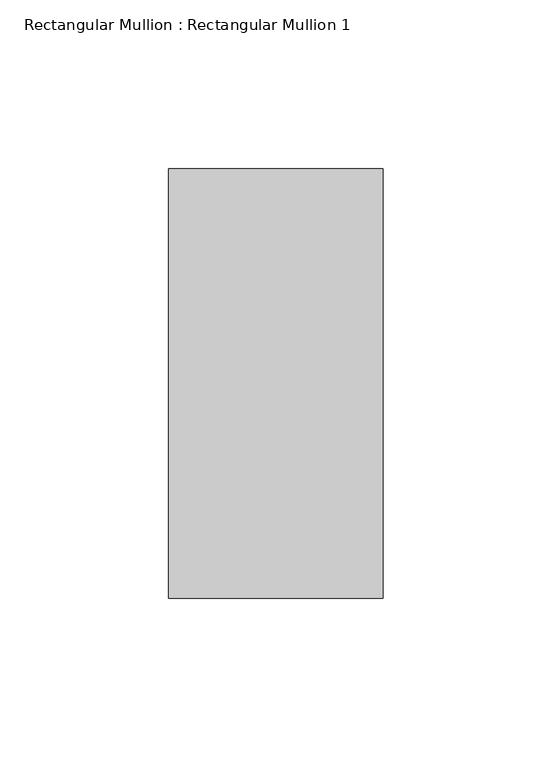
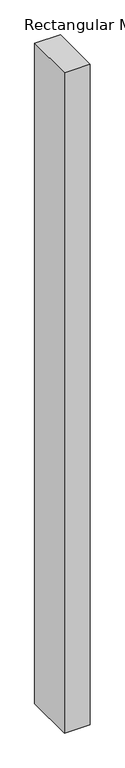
"""IFC4 building model written with IfcOpenShell, lengths in millimetres: member geometry, Rectangular Mullion : Rectangular Mullion 1."""

import ifcopenshell
import ifcopenshell.guid

model = None  # the IFC model being written
_history = None  # IfcOwnerHistory: only IFC2X3 demands one
_inside = {}  # id of a spatial element -> (the spatial element, [elements in it])
_under = {}  # id of a project, library or spatial element -> (it, [spatial elements below it])
_declared = {}  # id of a project -> (the project, [libraries it declares])
_typed = {}  # id of a type object -> (the type object, [elements of that type])
_made_of = {}  # id of a material, layer set ... -> (it, [elements and type objects made of it])


def new_model(schema):
    """Start an empty IFC model of exactly this schema.

    Asked for "IFC4X3", IfcOpenShell would pick the latest addendum, in which some entities
    have other attributes; the version numbers below select the first issue.
    IFC2X3 requires an IfcOwnerHistory on every rooted entity: one is made here for all.
    """
    global model, _history
    if schema == "IFC4X3":
        model = ifcopenshell.file(schema_version=(4, 3, 0, 0))
    else:
        model = ifcopenshell.file(schema=schema)
    _inside.clear()
    _under.clear()
    _declared.clear()
    _typed.clear()
    _made_of.clear()
    _history = None
    if model.schema == "IFC2X3":
        org = make("IfcOrganization", Name="unknown")
        user = make(
            "IfcPersonAndOrganization",
            ThePerson=make("IfcPerson", FamilyName="unknown"),
            TheOrganization=org,
        )
        app = make(
            "IfcApplication",
            ApplicationDeveloper=org,
            Version="unknown",
            ApplicationFullName="unknown",
            ApplicationIdentifier="unknown",
        )
        _history = make(
            "IfcOwnerHistory",
            OwningUser=user,
            OwningApplication=app,
            ChangeAction="ADDED",
            CreationDate=0,
        )
    return model


def make(cls, **values):
    """One entity of the class cls with the attributes given. An attribute that is None is left unset."""
    return model.create_entity(
        cls, **{name: value for name, value in values.items() if value is not None}
    )


def rooted(cls, **values):
    """An entity with a GlobalId (a new one), such as an element, a storey or a relation."""
    return make(cls, GlobalId=ifcopenshell.guid.new(), OwnerHistory=_history, **values)


def si_unit(unit_type, name, prefix=None):
    """IfcSIUnit, for example si_unit("LENGTHUNIT", "METRE", prefix="MILLI")."""
    return make("IfcSIUnit", UnitType=unit_type, Prefix=prefix, Name=name)


def assignment(units):
    """IfcUnitAssignment: the units of a project."""
    return None if units is None else make("IfcUnitAssignment", Units=units)


def point(xyz):
    """IfcCartesianPoint."""
    return None if xyz is None else make("IfcCartesianPoint", Coordinates=xyz)


def direction(xyz):
    """IfcDirection."""
    return None if xyz is None else make("IfcDirection", DirectionRatios=xyz)


def frame(location, z_axis=None, x_axis=None):
    """IfcAxis2Placement3D, a coordinate frame: its origin and axes. An axis left out is left unset."""
    return make(
        "IfcAxis2Placement3D",
        Location=point(location),
        Axis=direction(z_axis),
        RefDirection=direction(x_axis),
    )


def origin():
    """The frame at (0, 0, 0) with its axes left unset."""
    return frame((0.0, 0.0, 0.0))


def place(relative_to, where):
    """IfcLocalPlacement: puts the frame where relative to a parent placement (None: the world)."""
    return make(
        "IfcLocalPlacement", PlacementRelTo=relative_to, RelativePlacement=where
    )


def context(
    kind, dimensions, precision=None, world=None, true_north=None, identifier=None
):
    """IfcGeometricRepresentationContext, for example the 3D "Model" context."""
    return make(
        "IfcGeometricRepresentationContext",
        ContextIdentifier=identifier,
        ContextType=kind,
        CoordinateSpaceDimension=dimensions,
        Precision=precision,
        WorldCoordinateSystem=world,
        TrueNorth=true_north,
    )


def project(units=None, contexts=None):
    """IfcProject with its units and contexts."""
    return rooted(
        "IfcProject",
        Name="project",
        RepresentationContexts=contexts,
        UnitsInContext=assignment(units),
    )


def spatial(cls, under=None, at=None, **own):
    """A site, building, storey or space (cls), placed at a placement, below another one or the project."""
    s = rooted(cls, ObjectPlacement=at, **own)
    if under is not None:
        _under.setdefault(under.id(), (under, []))[1].append(s)
    return s


def polyline(points):
    """IfcPolyline through the points."""
    return make("IfcPolyline", Points=[point(p) for p in points])


def outline(outer, holes=None, kind="AREA"):
    """IfcArbitraryClosedProfileDef: a profile drawn as a closed curve; with holes, ...WithVoids."""
    if holes is None:
        return make("IfcArbitraryClosedProfileDef", ProfileType=kind, OuterCurve=outer)
    return make(
        "IfcArbitraryProfileDefWithVoids",
        ProfileType=kind,
        OuterCurve=outer,
        InnerCurves=holes,
    )


def extrude(swept, where, along, depth):
    """IfcExtrudedAreaSolid: the profile swept, set in the frame where, extruded along a direction by depth."""
    return make(
        "IfcExtrudedAreaSolid",
        SweptArea=swept,
        Position=where,
        ExtrudedDirection=direction(along),
        Depth=depth,
    )


def shape(context_of_items, identifier, shape_type, items):
    """IfcShapeRepresentation: the items that make up one representation, for example the "Body"."""
    return make(
        "IfcShapeRepresentation",
        ContextOfItems=context_of_items,
        RepresentationIdentifier=identifier,
        RepresentationType=shape_type,
        Items=items,
    )


def source(mapping_origin, context_of_items, identifier, shape_type, items):
    """IfcRepresentationMap: a shape defined once, which mapped items show again and again."""
    return make(
        "IfcRepresentationMap",
        MappingOrigin=mapping_origin,
        MappedRepresentation=shape(context_of_items, identifier, shape_type, items),
    )


def transform(
    local_origin,
    x_axis=None,
    y_axis=None,
    z_axis=None,
    scale=None,
    scale2=None,
    scale3=None,
    uniform=True,
):
    """IfcCartesianTransformationOperator3D, or its non-uniform kind. x_axis, y_axis, z_axis: its Axis1, 2, 3."""
    if uniform:
        return make(
            "IfcCartesianTransformationOperator3D",
            Axis1=direction(x_axis),
            Axis2=direction(y_axis),
            LocalOrigin=point(local_origin),
            Scale=scale,
            Axis3=direction(z_axis),
        )
    return make(
        "IfcCartesianTransformationOperator3DnonUniform",
        Axis1=direction(x_axis),
        Axis2=direction(y_axis),
        LocalOrigin=point(local_origin),
        Scale=scale,
        Axis3=direction(z_axis),
        Scale2=scale2,
        Scale3=scale3,
    )


def mapped(mapping_source, mapping_target):
    """IfcMappedItem: shows the shape of a source again, moved by a transform."""
    return make(
        "IfcMappedItem", MappingSource=mapping_source, MappingTarget=mapping_target
    )


def made_of(thing, what):
    """Note that an element or type object is made of a material, layer set ...; save() writes the relation."""
    if what is not None:
        _made_of.setdefault(what.id(), (what, []))[1].append(thing)
    return thing


def element(
    cls,
    number,
    at=None,
    inside=None,
    cuts=None,
    type_object=None,
    material=None,
    context=None,
    identifier="Body",
    shape_type=None,
    held_by="IfcProductDefinitionShape",
    body=None,
    shapes=None,
    **own,
):
    """One element of the class cls, such as IfcWall. Its Tag is "e" and its number.

    at: its placement. inside: the storey or other place that contains it. cuts: it is an
    opening in that element (IfcRelVoidsElement). A single representation is given by context,
    identifier, shape_type and body (its items); several are given by shapes. held_by: the class
    of the entity that holds the representations. save() writes the other relations.
    """
    e = rooted(cls, Tag="e%d" % number, ObjectPlacement=at, **own)
    if body is not None:
        shapes = [shape(context, identifier, shape_type, body)]
    if shapes is not None:
        e.Representation = make(held_by, Representations=shapes)
    if inside is not None:
        _inside.setdefault(inside.id(), (inside, []))[1].append(e)
    if cuts is not None:
        rooted(
            "IfcRelVoidsElement", RelatingBuildingElement=cuts, RelatedOpeningElement=e
        )
    if type_object is not None:
        _typed.setdefault(type_object.id(), (type_object, []))[1].append(e)
    return made_of(e, material)


def aggregate(whole, parts):
    """IfcRelAggregates: a whole, such as a stair, and the parts it consists of."""
    return rooted("IfcRelAggregates", RelatingObject=whole, RelatedObjects=parts)


def save(model, path):
    """Write the relations noted so far, then the file.

    IfcRelAggregates (storeys below a building ...), IfcRelContainedInSpatialStructure (elements
    in a storey), IfcRelDefinesByType, IfcRelAssociatesMaterial and IfcRelDeclares: one each for
    every whole, place, type object, material and project.
    """
    for whole, parts in _under.values():
        aggregate(whole, parts)
    for where, things in _inside.values():
        rooted(
            "IfcRelContainedInSpatialStructure",
            RelatedElements=things,
            RelatingStructure=where,
        )
    for kind, things in _typed.values():
        rooted("IfcRelDefinesByType", RelatedObjects=things, RelatingType=kind)
    for what, things in _made_of.values():
        rooted("IfcRelAssociatesMaterial", RelatedObjects=things, RelatingMaterial=what)
    for by, libraries in _declared.values():
        rooted("IfcRelDeclares", RelatingContext=by, RelatedDefinitions=libraries)
    model.write(path)


def rectangular_mullion_rectangular_mullion_1_3a68a7ba(model_context):
    return source(origin(), model_context, "Body", "SweptSolid", [
        extrude(outline(polyline([(31.75, 63.5), (31.75, -63.5), (-31.75, -63.5), (-31.75, 63.5), (31.75, 63.5)])), frame((0.0, 0.0, -1725.4418277), z_axis=(0.0, 0.0, 1.0), x_axis=(1.0, 0.0, 0.0)), (0.0, 0.0, 1.0), 1725.4418277),
    ])


if __name__ == "__main__":
    model = new_model("IFC4")
    model_context = context("Model", 3, world=origin())
    ifc_project = project(units=[si_unit("LENGTHUNIT", "METRE", prefix="MILLI")], contexts=[model_context])
    site = spatial("IfcSite", under=ifc_project)
    building = spatial("IfcBuilding", under=site)
    placement = place(None, origin())
    rectangular_mullion_rectangular_mullion_1_shape = rectangular_mullion_rectangular_mullion_1_3a68a7ba(model_context)
    element("IfcMember", 1, ObjectType="Rectangular Mullion : Rectangular Mullion 1", at=placement, inside=building, context=model_context, shape_type="MappedRepresentation", body=[
        mapped(rectangular_mullion_rectangular_mullion_1_shape, transform((0.0, 0.0, 0.0), x_axis=(1.0, 0.0, 0.0), y_axis=(0.0, 1.0, 0.0), z_axis=(0.0, 0.0, 1.0))),
    ])
    save(model, "model.ifc")
